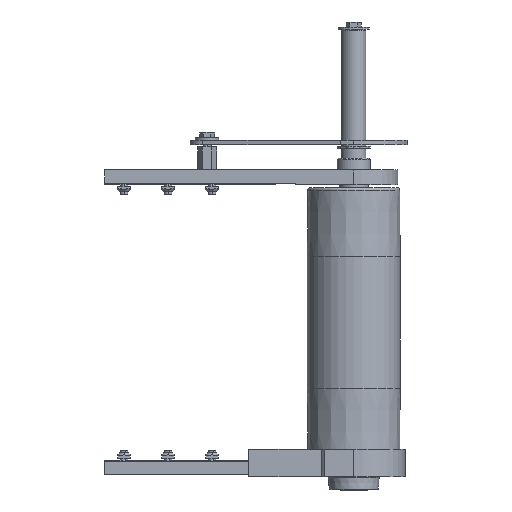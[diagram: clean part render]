
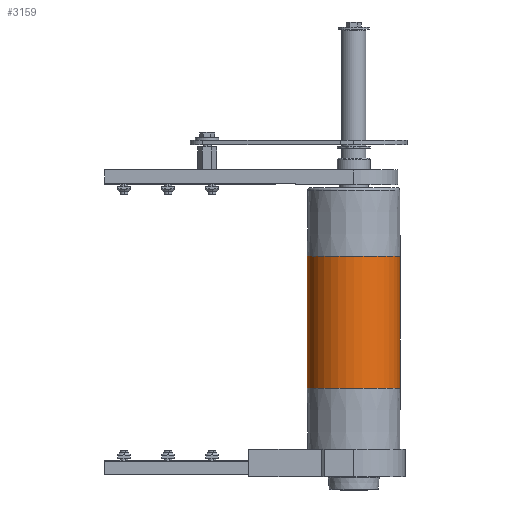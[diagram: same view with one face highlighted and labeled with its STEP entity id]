
A CAD part, front view. The second image highlights one B-rep face of the part: STEP entity #3159.
In plain terms, the highlighted cylindrical face has radius 47.5 mm (diameter 95 mm), a partial arc.
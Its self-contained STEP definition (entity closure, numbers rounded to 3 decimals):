
#3159 = ADVANCED_FACE ( 'NONE', ( #9633 ), #9638, .T. ) ;
#5108 = EDGE_LOOP ( 'NONE', ( #38126, #37896, #37784, #37891 ) ) ;
#5958 = CARTESIAN_POINT ( 'NONE',  ( 0., 0., 135. ) ) ;
#5960 = DIRECTION ( 'NONE',  ( 0., 0., -1. ) ) ;
#5963 = DIRECTION ( 'NONE',  ( -1., 0., 0. ) ) ;
#8147 = CARTESIAN_POINT ( 'NONE',  ( -47.5, 0., -67.5 ) ) ;
#8296 = CARTESIAN_POINT ( 'NONE',  ( 47.5, 0., 67.5 ) ) ;
#8381 = CARTESIAN_POINT ( 'NONE',  ( 47.5, 0., -67.5 ) ) ;
#8424 = CARTESIAN_POINT ( 'NONE',  ( -47.5, 0., 67.5 ) ) ;
#9633 = FACE_OUTER_BOUND ( 'NONE', #5108, .T. ) ;
#9638 = CYLINDRICAL_SURFACE ( 'NONE', #28276, 47.5 ) ;
#11241 = EDGE_CURVE ( 'NONE', #36733, #36819, #36319, .T. ) ;
#11242 = EDGE_CURVE ( 'NONE', #36862, #36581, #36323, .T. ) ;
#11330 = EDGE_CURVE ( 'NONE', #36862, #36733, #36546, .T. ) ;
#11331 = EDGE_CURVE ( 'NONE', #36581, #36819, #36552, .T. ) ;
#17631 = CARTESIAN_POINT ( 'NONE',  ( 0., 0., 67.5 ) ) ;
#17632 = DIRECTION ( 'NONE',  ( 0., 0., 1. ) ) ;
#17633 = DIRECTION ( 'NONE',  ( 1., 0., 0. ) ) ;
#17634 = CARTESIAN_POINT ( 'NONE',  ( 0., 0., -67.5 ) ) ;
#17635 = DIRECTION ( 'NONE',  ( 0., 0., 1. ) ) ;
#17636 = DIRECTION ( 'NONE',  ( 1., 0., 0. ) ) ;
#19486 = DIRECTION ( 'NONE',  ( 0., 0., -1. ) ) ;
#19489 = CARTESIAN_POINT ( 'NONE',  ( -47.5, 0., 135. ) ) ;
#19490 = CARTESIAN_POINT ( 'NONE',  ( 47.5, 0., 135. ) ) ;
#19494 = DIRECTION ( 'NONE',  ( 0., 0., -1. ) ) ;
#20671 = AXIS2_PLACEMENT_3D ( 'NONE', #17631, #17632, #17633 ) ;
#20672 = AXIS2_PLACEMENT_3D ( 'NONE', #17634, #17635, #17636 ) ;
#28276 = AXIS2_PLACEMENT_3D ( 'NONE', #5958, #5960, #5963 ) ;
#36319 = LINE ( 'NONE', #19490, #36325 ) ;
#36323 = LINE ( 'NONE', #19489, #36327 ) ;
#36325 = VECTOR ( 'NONE', #19486, 1000. ) ;
#36327 = VECTOR ( 'NONE', #19494, 1000. ) ;
#36546 = CIRCLE ( 'NONE', #20671, 47.5 ) ;
#36552 = CIRCLE ( 'NONE', #20672, 47.5 ) ;
#36581 = VERTEX_POINT ( 'NONE', #8147 ) ;
#36733 = VERTEX_POINT ( 'NONE', #8296 ) ;
#36819 = VERTEX_POINT ( 'NONE', #8381 ) ;
#36862 = VERTEX_POINT ( 'NONE', #8424 ) ;
#37784 = ORIENTED_EDGE ( 'NONE', *, *, #11242, .T. ) ;
#37891 = ORIENTED_EDGE ( 'NONE', *, *, #11331, .T. ) ;
#37896 = ORIENTED_EDGE ( 'NONE', *, *, #11330, .F. ) ;
#38126 = ORIENTED_EDGE ( 'NONE', *, *, #11241, .F. ) ;
